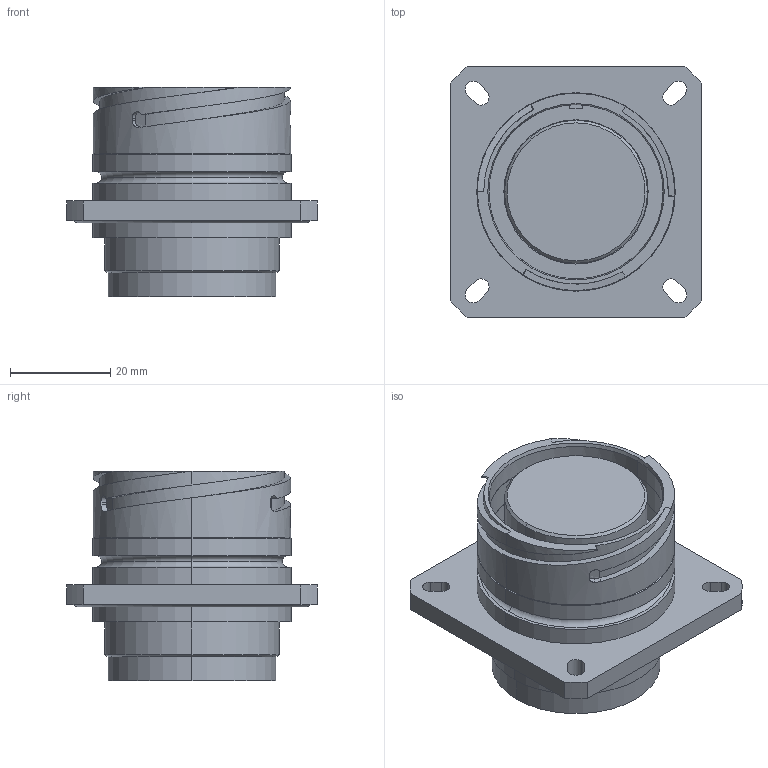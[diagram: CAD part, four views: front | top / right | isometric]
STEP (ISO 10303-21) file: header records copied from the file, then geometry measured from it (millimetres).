
FILE_DESCRIPTION (( 'STEP AP214' ), '1' );
FILE_NAME ('QLINK-RFBX-23XX-S00-RA.STEP', '2025-12-16T16:00:03', ( '' ), ( '' ), 'SwSTEP 2.0', 'SolidWorks 2024', '' );
FILE_SCHEMA (( 'AUTOMOTIVE_DESIGN' ));
Length unit declared in the file: millimetre
Products named in the file (1): QLINK-RFBX-23XX-S00-RA
Bounding box: 50.04 x 50.04 x 41.91 mm (x, y, z)
Volume: 42706 mm3; surface area: 16167.9 mm2
Topology: 2 solids, 2 shells, 150 faces, 368 edges, 231 vertices
Faces by surface type: cylinder 65, plane 43, torus 18, cone 12, bspline 12
Entity records: 6118 total; most frequent: CARTESIAN_POINT 2539, DIRECTION 767, ORIENTED_EDGE 736, EDGE_CURVE 368, AXIS2_PLACEMENT_3D 313, VERTEX_POINT 231, CIRCLE 174, EDGE_LOOP 171
